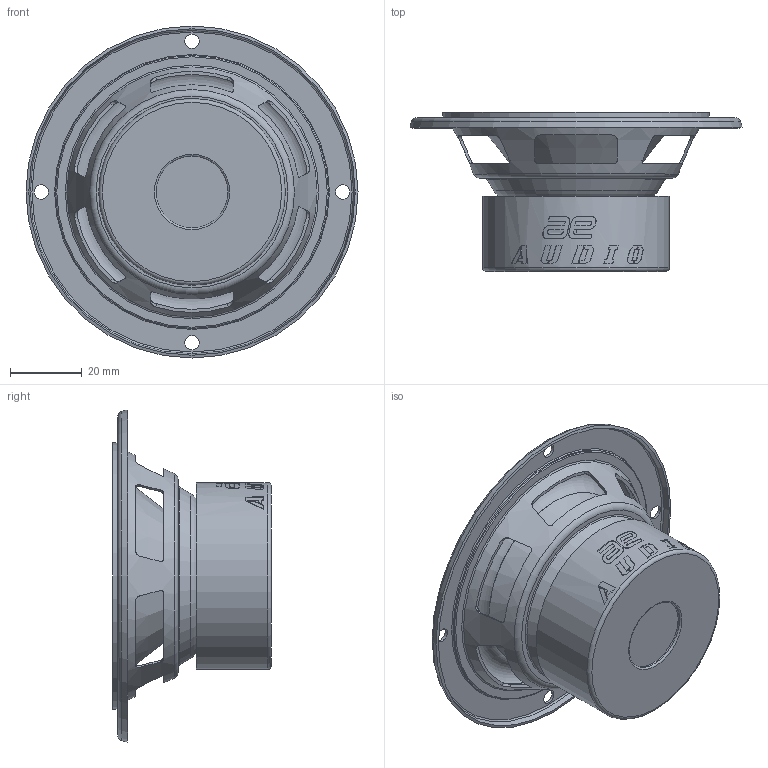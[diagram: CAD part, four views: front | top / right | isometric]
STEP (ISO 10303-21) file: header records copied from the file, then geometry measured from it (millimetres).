
FILE_DESCRIPTION(('FreeCAD Model'),'2;1');
FILE_NAME('Open CASCADE Shape Model','2023-05-06T18:44:57',('Author'),( ''),'Open CASCADE STEP processor 7.5','FreeCAD','Unknown');
FILE_SCHEMA(('AUTOMOTIVE_DESIGN { 1 0 10303 214 1 1 1 1 }'));
Length unit declared in the file: millimetre
Products named in the file (1): dynamic_FD92-7B 4Om_10W
Bounding box: 92.55 x 44.3 x 92.55 mm (x, y, z)
Volume: 30611.7 mm3; surface area: 47686.4 mm2
Topology: 6 solids, 6 shells, 270 faces, 698 edges, 457 vertices
Faces by surface type: plane 85, bspline 73, cylinder 53, cone 30, torus 27, sphere 2
Full cylindrical faces by diameter (mm): 4 x4, 20 x1, 21.6 x1, 24 x1, 40.921 x1, 41.521 x1, 45 x1, 50.4 x1, 52 x1, 69.409 x1, 74.409 x1, 76 x1
Entity records: 14451 total; most frequent: CARTESIAN_POINT 6017, ORIENTED_EDGE 1172, DIRECTION 850, EDGE_CURVE 586, VERTEX_POINT 422, AXIS2_PLACEMENT_3D 401, EDGE_LOOP 390, B_SPLINE_CURVE_WITH_KNOTS 334
